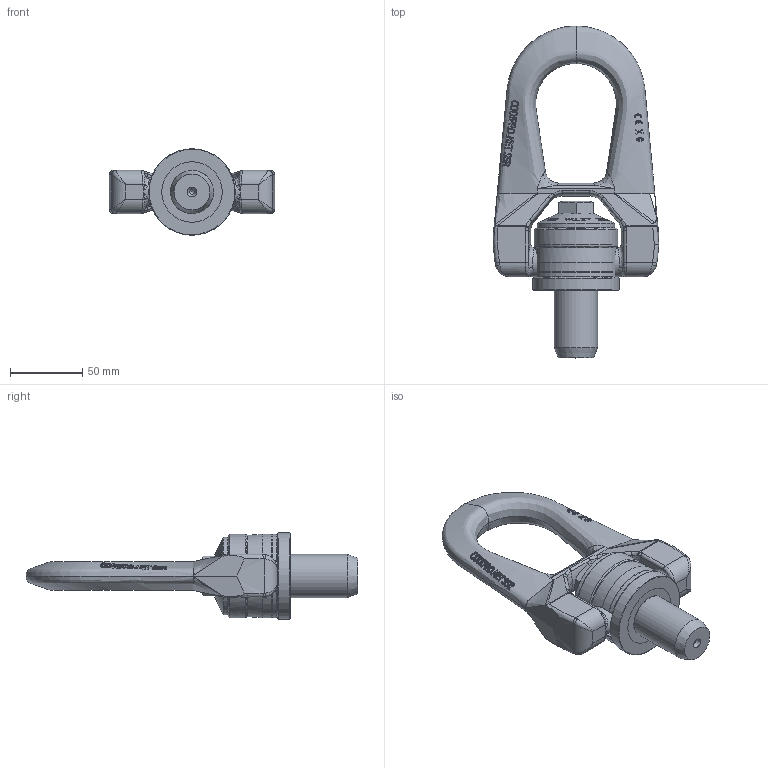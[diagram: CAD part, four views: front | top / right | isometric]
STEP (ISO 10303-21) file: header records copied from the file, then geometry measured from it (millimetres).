
FILE_DESCRIPTION(/* description */ (''),/* implementation_level */ '2;1');
FILE_NAME(/* name */ 'W:\CODIPRO\DOCUMENTS\Plans A NE PAS DIFFUSER !!!\Fichiers STEP\Gamme 2018\Produits NON GRADUP\SS DSR\SS DSR M30.stp',/* time_stamp */ '2017-09-26T13:12:15+02:00',/* author */ ('rklenes'),/* organization */ (''),/* preprocessor_version */ 'ST-DEVELOPER v16.5',/* originating_system */ 'Autodesk Inventor 2017',/* authorisation */ '');
FILE_SCHEMA (('AUTOMOTIVE_DESIGN { 1 0 10303 214 3 1 1 }'));
Products named in the file (5): SS DSR M30; DRM_AF3B; SSB_B3B; DRA_M30X88; DRE_D3M30A
Assembly tree (4 placements, depth 2):
  SS DSR M30
    DRM_AF3B
    SSB_B3B
    DRA_M30X88
    DRE_D3M30A
Bounding box: 115 x 230.25 x 59.99 mm (x, y, z)
Volume: 344771.7 mm3; surface area: 76302.3 mm2
Topology: 4 solids, 4 shells, 795 faces, 2112 edges, 1360 vertices
Faces by surface type: plane 352, bspline 313, cylinder 70, cone 44, torus 15, sphere 1
Full cylindrical faces by diameter (mm): 3.15 x1, 20 x2, 29.92 x3, 30.12 x1, 33.6 x2, 34 x2, 46 x1, 54 x1, 58 x1, 60 x1
Entity records: 45750 total; most frequent: CARTESIAN_POINT 28404, ORIENTED_EDGE 4118, DIRECTION 2679, EDGE_CURVE 2059, VERTEX_POINT 1352, AXIS2_PLACEMENT_3D 979, EDGE_LOOP 881, FACE_OUTER_BOUND 795
